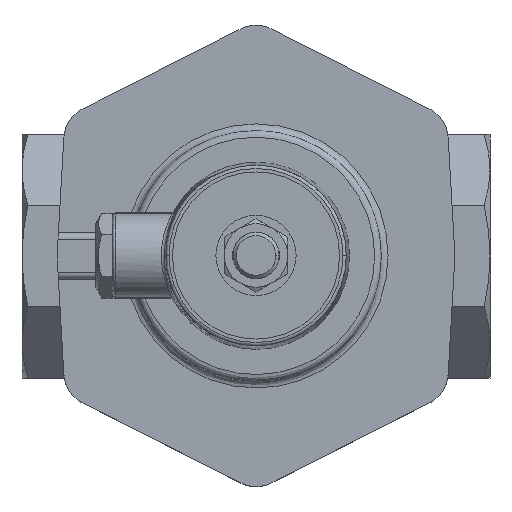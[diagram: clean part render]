
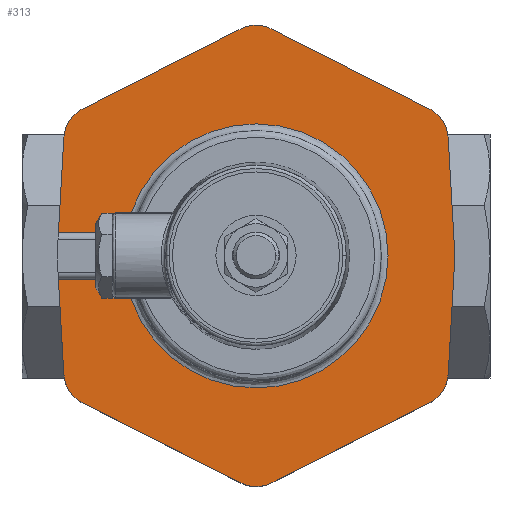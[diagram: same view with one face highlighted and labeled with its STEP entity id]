
A CAD part, top view. The second image highlights one B-rep face of the part: STEP entity #313.
In plain terms, the highlighted planar face has unit normal (0, 0, 1).
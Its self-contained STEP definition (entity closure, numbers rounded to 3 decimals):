
#313=ADVANCED_FACE('',(#1830),#1829,.T.);
#1829=PLANE('',#5294);
#1830=FACE_OUTER_BOUND('',#5295,.T.);
#5291=CARTESIAN_POINT('',(-69.103,-80.203,51.3));
#5292=DIRECTION('',(0.,0.,1.));
#5293=DIRECTION('',(1.,0.,0.));
#5294=AXIS2_PLACEMENT_3D('',#5291,#5292,#5293);
#5295=EDGE_LOOP('',(#8066,#8067,#8068,#8069,#8070,#8071,#8072,#8073,#8074,#8075,#8076,#8077,#8078,#8079,#8080,#8081,#8082));
#8066=ORIENTED_EDGE('',*,*,#9598,.T.);
#8067=ORIENTED_EDGE('',*,*,#9599,.T.);
#8068=ORIENTED_EDGE('',*,*,#9158,.T.);
#8069=ORIENTED_EDGE('',*,*,#9584,.T.);
#8070=ORIENTED_EDGE('',*,*,#9577,.T.);
#8071=ORIENTED_EDGE('',*,*,#9574,.T.);
#8072=ORIENTED_EDGE('',*,*,#9571,.T.);
#8073=ORIENTED_EDGE('',*,*,#9565,.T.);
#8074=ORIENTED_EDGE('',*,*,#9569,.T.);
#8075=ORIENTED_EDGE('',*,*,#9600,.T.);
#8076=ORIENTED_EDGE('',*,*,#9601,.T.);
#8077=ORIENTED_EDGE('',*,*,#9602,.T.);
#8078=ORIENTED_EDGE('',*,*,#9603,.T.);
#8079=ORIENTED_EDGE('',*,*,#9604,.T.);
#8080=ORIENTED_EDGE('',*,*,#9596,.T.);
#8081=ORIENTED_EDGE('',*,*,#9593,.T.);
#8082=ORIENTED_EDGE('',*,*,#9587,.T.);
#9158=EDGE_CURVE('',#10065,#10058,#10066,.T.);
#9565=EDGE_CURVE('',#12804,#12797,#12805,.T.);
#9569=EDGE_CURVE('',#12797,#12824,#12831,.T.);
#9571=EDGE_CURVE('',#12844,#12804,#12845,.T.);
#9574=EDGE_CURVE('',#12864,#12844,#12865,.T.);
#9577=EDGE_CURVE('',#12884,#12864,#12885,.T.);
#9584=EDGE_CURVE('',#10058,#12884,#12931,.T.);
#9587=EDGE_CURVE('',#12950,#12943,#12951,.T.);
#9593=EDGE_CURVE('',#12991,#12950,#12992,.T.);
#9596=EDGE_CURVE('',#13011,#12991,#13012,.T.);
#9598=EDGE_CURVE('',#12943,#13024,#13025,.T.);
#9599=EDGE_CURVE('',#13024,#10065,#13031,.T.);
#9600=EDGE_CURVE('',#12824,#13037,#13038,.T.);
#9601=EDGE_CURVE('',#13037,#13044,#13045,.T.);
#9602=EDGE_CURVE('',#13044,#13051,#13052,.T.);
#9603=EDGE_CURVE('',#13051,#13058,#13059,.T.);
#9604=EDGE_CURVE('',#13058,#13011,#13065,.T.);
#10058=VERTEX_POINT('',#15862);
#10065=VERTEX_POINT('',#15866);
#10066=LINE('',#15867,#15868);
#12797=VERTEX_POINT('',#18386);
#12804=VERTEX_POINT('',#18390);
#12805=LINE('',#18391,#18392);
#12824=VERTEX_POINT('',#18402);
#12831=CIRCLE('',#18409,10.);
#12844=VERTEX_POINT('',#18415);
#12845=CIRCLE('',#18419,10.);
#12864=VERTEX_POINT('',#18427);
#12865=LINE('',#18428,#18429);
#12884=VERTEX_POINT('',#18439);
#12885=CIRCLE('',#18443,10.);
#12931=LINE('',#18466,#18467);
#12943=VERTEX_POINT('',#18472);
#12950=VERTEX_POINT('',#18476);
#12951=LINE('',#18477,#18478);
#12991=VERTEX_POINT('',#18500);
#12992=CIRCLE('',#18504,10.);
#13011=VERTEX_POINT('',#18512);
#13012=LINE('',#18513,#18514);
#13024=VERTEX_POINT('',#18519);
#13025=LINE('',#18520,#18521);
#13031=CIRCLE('',#18526,39.5);
#13037=VERTEX_POINT('',#18527);
#13038=LINE('',#18528,#18529);
#13044=VERTEX_POINT('',#18531);
#13045=LINE('',#18532,#18533);
#13051=VERTEX_POINT('',#18535);
#13052=CIRCLE('',#18539,10.);
#13058=VERTEX_POINT('',#18540);
#13059=LINE('',#18541,#18542);
#13065=CIRCLE('',#18547,10.);
#15862=CARTESIAN_POINT('',(-59.103,-7.,51.3));
#15866=CARTESIAN_POINT('',(-38.875,-7.,51.3));
#15867=CARTESIAN_POINT('',(-38.875,-7.,51.3));
#15868=VECTOR('',#15869,20.228);
#15869=DIRECTION('',(-1.,0.,0.));
#18386=CARTESIAN_POINT('',(52.033,-43.913,51.3));
#18390=CARTESIAN_POINT('',(4.482,-67.939,51.3));
#18391=CARTESIAN_POINT('',(4.482,-67.939,51.3));
#18392=VECTOR('',#18393,53.277);
#18393=DIRECTION('',(0.893,0.451,0.));
#18402=CARTESIAN_POINT('',(57.484,-35.566,51.3));
#18406=CARTESIAN_POINT('',(47.5,-35.,51.3));
#18407=DIRECTION('',(0.,0.,1.));
#18408=DIRECTION('',(-1.,0.,0.));
#18409=AXIS2_PLACEMENT_3D('',#18406,#18407,#18408);
#18415=CARTESIAN_POINT('',(-4.535,-67.913,51.3));
#18416=CARTESIAN_POINT('',(0.,-59.,51.3));
#18417=DIRECTION('',(0.,0.,1.));
#18418=DIRECTION('',(-1.,0.,0.));
#18419=AXIS2_PLACEMENT_3D('',#18416,#18417,#18418);
#18427=CARTESIAN_POINT('',(-52.033,-43.913,51.3));
#18428=CARTESIAN_POINT('',(-52.033,-43.913,51.3));
#18429=VECTOR('',#18430,53.217);
#18430=DIRECTION('',(0.893,-0.451,0.));
#18439=CARTESIAN_POINT('',(-57.484,-35.566,51.3));
#18440=CARTESIAN_POINT('',(-47.5,-35.,51.3));
#18441=DIRECTION('',(0.,0.,1.));
#18442=DIRECTION('',(-1.,0.,0.));
#18443=AXIS2_PLACEMENT_3D('',#18440,#18441,#18442);
#18466=CARTESIAN_POINT('',(-59.103,-7.,51.3));
#18467=VECTOR('',#18468,28.612);
#18468=DIRECTION('',(0.057,-0.998,0.));
#18472=CARTESIAN_POINT('',(-59.103,7.,51.3));
#18476=CARTESIAN_POINT('',(-57.484,35.566,51.3));
#18477=CARTESIAN_POINT('',(-57.484,35.566,51.3));
#18478=VECTOR('',#18479,28.612);
#18479=DIRECTION('',(-0.057,-0.998,0.));
#18500=CARTESIAN_POINT('',(-52.033,43.913,51.3));
#18501=CARTESIAN_POINT('',(-47.5,35.,51.3));
#18502=DIRECTION('',(0.,0.,1.));
#18503=DIRECTION('',(-1.,0.,0.));
#18504=AXIS2_PLACEMENT_3D('',#18501,#18502,#18503);
#18512=CARTESIAN_POINT('',(-4.484,67.938,51.3));
#18513=CARTESIAN_POINT('',(-4.484,67.938,51.3));
#18514=VECTOR('',#18515,53.274);
#18515=DIRECTION('',(-0.893,-0.451,0.));
#18519=CARTESIAN_POINT('',(-38.875,7.,51.3));
#18520=CARTESIAN_POINT('',(-59.103,7.,51.3));
#18521=VECTOR('',#18522,20.228);
#18522=DIRECTION('',(1.,0.,0.));
#18523=CARTESIAN_POINT('',(0.,0.,51.3));
#18524=DIRECTION('',(0.,0.,-1.));
#18525=DIRECTION('',(-1.,0.,0.));
#18526=AXIS2_PLACEMENT_3D('',#18523,#18524,#18525);
#18527=CARTESIAN_POINT('',(59.5,0.,51.3));
#18528=CARTESIAN_POINT('',(57.484,-35.566,51.3));
#18529=VECTOR('',#18530,35.623);
#18530=DIRECTION('',(0.057,0.998,0.));
#18531=CARTESIAN_POINT('',(57.484,35.566,51.3));
#18532=CARTESIAN_POINT('',(59.5,0.,51.3));
#18533=VECTOR('',#18534,35.623);
#18534=DIRECTION('',(-0.057,0.998,0.));
#18535=CARTESIAN_POINT('',(52.033,43.913,51.3));
#18536=CARTESIAN_POINT('',(47.5,35.,51.3));
#18537=DIRECTION('',(0.,0.,1.));
#18538=DIRECTION('',(-1.,0.,0.));
#18539=AXIS2_PLACEMENT_3D('',#18536,#18537,#18538);
#18540=CARTESIAN_POINT('',(4.538,67.911,51.3));
#18541=CARTESIAN_POINT('',(52.033,43.913,51.3));
#18542=VECTOR('',#18543,53.214);
#18543=DIRECTION('',(-0.893,0.451,0.));
#18544=CARTESIAN_POINT('',(0.,59.,51.3));
#18545=DIRECTION('',(0.,0.,1.));
#18546=DIRECTION('',(-1.,0.,0.));
#18547=AXIS2_PLACEMENT_3D('',#18544,#18545,#18546);
